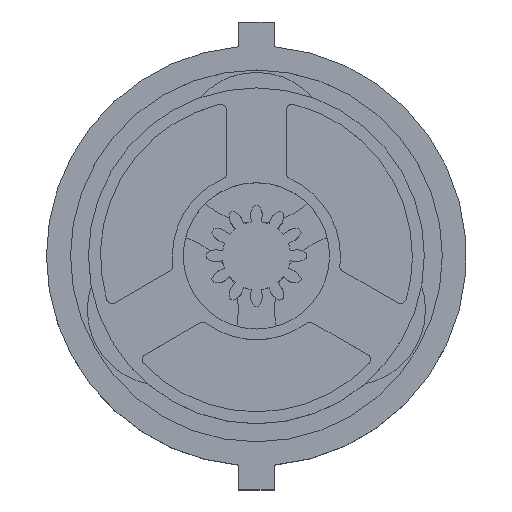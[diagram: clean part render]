
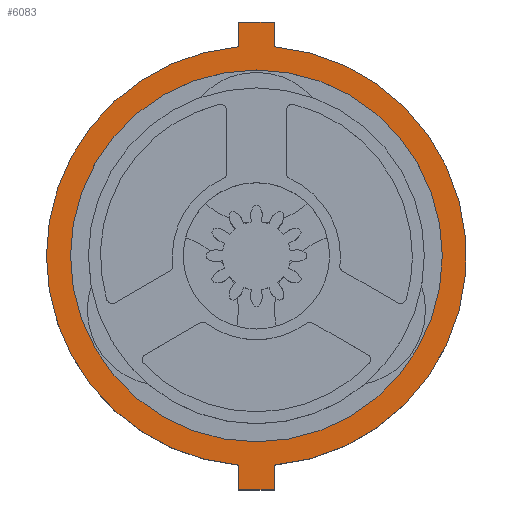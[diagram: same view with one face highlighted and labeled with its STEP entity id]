
A CAD part, top view. The second image highlights one B-rep face of the part: STEP entity #6083.
In plain terms, the highlighted planar face has unit normal (0, 0, 1).
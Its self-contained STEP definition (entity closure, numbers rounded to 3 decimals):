
#237 = CARTESIAN_POINT ( 'NONE',  ( 1.5, 17.436, 4.5 ) ) ;
#264 = DIRECTION ( 'NONE',  ( 0., 0., 1. ) ) ;
#531 = EDGE_CURVE ( 'NONE', #11348, #10470, #10943, .T. ) ;
#533 = EDGE_CURVE ( 'NONE', #4225, #11463, #2908, .T. ) ;
#665 = ORIENTED_EDGE ( 'NONE', *, *, #8161, .T. ) ;
#974 = ORIENTED_EDGE ( 'NONE', *, *, #7125, .T. ) ;
#1024 = DIRECTION ( 'NONE',  ( 1., 0., 0. ) ) ;
#1132 = CARTESIAN_POINT ( 'NONE',  ( -15.5, 0., 4.5 ) ) ;
#1181 = CARTESIAN_POINT ( 'NONE',  ( -1.5, 17.436, 4.5 ) ) ;
#1276 = DIRECTION ( 'NONE',  ( 0., 0., 1. ) ) ;
#1301 = LINE ( 'NONE', #9836, #5515 ) ;
#1413 = ORIENTED_EDGE ( 'NONE', *, *, #2164, .T. ) ;
#1693 = VERTEX_POINT ( 'NONE', #10947 ) ;
#1696 = VERTEX_POINT ( 'NONE', #1132 ) ;
#1781 = VECTOR ( 'NONE', #10933, 1000. ) ;
#2038 = LINE ( 'NONE', #7390, #5916 ) ;
#2164 = EDGE_CURVE ( 'NONE', #10470, #4225, #7751, .T. ) ;
#2465 = DIRECTION ( 'NONE',  ( 0., 0., 1. ) ) ;
#2513 = CIRCLE ( 'NONE', #3860, 17.5 ) ;
#2635 = CARTESIAN_POINT ( 'NONE',  ( -1.5, -17.436, 4.5 ) ) ;
#2701 = ORIENTED_EDGE ( 'NONE', *, *, #13694, .T. ) ;
#2908 = CIRCLE ( 'NONE', #6728, 17.5 ) ;
#3075 = ORIENTED_EDGE ( 'NONE', *, *, #531, .T. ) ;
#3744 = EDGE_CURVE ( 'NONE', #3961, #3769, #5150, .T. ) ;
#3769 = VERTEX_POINT ( 'NONE', #11923 ) ;
#3860 = AXIS2_PLACEMENT_3D ( 'NONE', #10209, #4912, #9158 ) ;
#3961 = VERTEX_POINT ( 'NONE', #10017 ) ;
#4162 = CIRCLE ( 'NONE', #10688, 15.5 ) ;
#4225 = VERTEX_POINT ( 'NONE', #1181 ) ;
#4529 = EDGE_CURVE ( 'NONE', #11463, #4781, #2513, .T. ) ;
#4658 = CARTESIAN_POINT ( 'NONE',  ( -1.5, 19.5, 4.5 ) ) ;
#4773 = EDGE_LOOP ( 'NONE', ( #974, #665, #3075, #1413, #7595, #13312, #11727, #2701, #13115 ) ) ;
#4774 = AXIS2_PLACEMENT_3D ( 'NONE', #11399, #4898, #6937 ) ;
#4781 = VERTEX_POINT ( 'NONE', #2635 ) ;
#4898 = DIRECTION ( 'NONE',  ( 0., 0., 1. ) ) ;
#4912 = DIRECTION ( 'NONE',  ( 0., 0., 1. ) ) ;
#4924 = DIRECTION ( 'NONE',  ( 1., 0., 0. ) ) ;
#5150 = LINE ( 'NONE', #12712, #9921 ) ;
#5401 = LINE ( 'NONE', #10563, #6403 ) ;
#5515 = VECTOR ( 'NONE', #1024, 1000. ) ;
#5553 = DIRECTION ( 'NONE',  ( 1., 0., 0. ) ) ;
#5701 = CIRCLE ( 'NONE', #13813, 17.5 ) ;
#5916 = VECTOR ( 'NONE', #10853, 1000. ) ;
#6083 = ADVANCED_FACE ( 'NONE', ( #12593, #8007 ), #12323, .T. ) ;
#6138 = CARTESIAN_POINT ( 'NONE',  ( -17.5, 0., 4.5 ) ) ;
#6337 = VERTEX_POINT ( 'NONE', #237 ) ;
#6403 = VECTOR ( 'NONE', #7309, 1000. ) ;
#6627 = DIRECTION ( 'NONE',  ( -1., 0., 0. ) ) ;
#6628 = CIRCLE ( 'NONE', #12949, 15.5 ) ;
#6667 = EDGE_CURVE ( 'NONE', #4781, #1693, #2038, .T. ) ;
#6672 = CARTESIAN_POINT ( 'NONE',  ( 0., 0., 4.5 ) ) ;
#6728 = AXIS2_PLACEMENT_3D ( 'NONE', #11081, #1276, #12996 ) ;
#6937 = DIRECTION ( 'NONE',  ( 1., 0., 0. ) ) ;
#7125 = EDGE_CURVE ( 'NONE', #3769, #6337, #5701, .T. ) ;
#7179 = ORIENTED_EDGE ( 'NONE', *, *, #8054, .F. ) ;
#7309 = DIRECTION ( 'NONE',  ( 0., 1., 0. ) ) ;
#7390 = CARTESIAN_POINT ( 'NONE',  ( -1.5, -19.5, 4.5 ) ) ;
#7595 = ORIENTED_EDGE ( 'NONE', *, *, #533, .T. ) ;
#7751 = LINE ( 'NONE', #10859, #1781 ) ;
#7821 = CARTESIAN_POINT ( 'NONE',  ( 0., 0., 4.5 ) ) ;
#8007 = FACE_OUTER_BOUND ( 'NONE', #4773, .T. ) ;
#8054 = EDGE_CURVE ( 'NONE', #1696, #11224, #4162, .T. ) ;
#8115 = ORIENTED_EDGE ( 'NONE', *, *, #13177, .F. ) ;
#8161 = EDGE_CURVE ( 'NONE', #6337, #11348, #5401, .T. ) ;
#9158 = DIRECTION ( 'NONE',  ( 1., 0., 0. ) ) ;
#9187 = DIRECTION ( 'NONE',  ( 0., 1., 0. ) ) ;
#9778 = DIRECTION ( 'NONE',  ( 1., 0., 0. ) ) ;
#9820 = CARTESIAN_POINT ( 'NONE',  ( -1.5, 19.5, 4.5 ) ) ;
#9836 = CARTESIAN_POINT ( 'NONE',  ( -1.5, -19.5, 4.5 ) ) ;
#9921 = VECTOR ( 'NONE', #9187, 1000. ) ;
#10017 = CARTESIAN_POINT ( 'NONE',  ( 1.5, -19.5, 4.5 ) ) ;
#10209 = CARTESIAN_POINT ( 'NONE',  ( 0., 0., 4.5 ) ) ;
#10307 = CARTESIAN_POINT ( 'NONE',  ( 1.5, 19.5, 4.5 ) ) ;
#10470 = VERTEX_POINT ( 'NONE', #9820 ) ;
#10563 = CARTESIAN_POINT ( 'NONE',  ( 1.5, 17.436, 4.5 ) ) ;
#10688 = AXIS2_PLACEMENT_3D ( 'NONE', #7821, #2465, #4924 ) ;
#10853 = DIRECTION ( 'NONE',  ( 0., -1., 0. ) ) ;
#10859 = CARTESIAN_POINT ( 'NONE',  ( -1.5, 17.436, 4.5 ) ) ;
#10933 = DIRECTION ( 'NONE',  ( 0., -1., 0. ) ) ;
#10943 = LINE ( 'NONE', #4658, #12829 ) ;
#10947 = CARTESIAN_POINT ( 'NONE',  ( -1.5, -19.5, 4.5 ) ) ;
#11081 = CARTESIAN_POINT ( 'NONE',  ( 0., 0., 4.5 ) ) ;
#11224 = VERTEX_POINT ( 'NONE', #13791 ) ;
#11348 = VERTEX_POINT ( 'NONE', #10307 ) ;
#11399 = CARTESIAN_POINT ( 'NONE',  ( 0., 0., 4.5 ) ) ;
#11463 = VERTEX_POINT ( 'NONE', #6138 ) ;
#11727 = ORIENTED_EDGE ( 'NONE', *, *, #6667, .T. ) ;
#11898 = CARTESIAN_POINT ( 'NONE',  ( 0., 0., 4.5 ) ) ;
#11923 = CARTESIAN_POINT ( 'NONE',  ( 1.5, -17.436, 4.5 ) ) ;
#11969 = DIRECTION ( 'NONE',  ( 0., 0., 1. ) ) ;
#12319 = EDGE_LOOP ( 'NONE', ( #8115, #7179 ) ) ;
#12323 = PLANE ( 'NONE',  #4774 ) ;
#12593 = FACE_BOUND ( 'NONE', #12319, .T. ) ;
#12712 = CARTESIAN_POINT ( 'NONE',  ( 1.5, -19.5, 4.5 ) ) ;
#12829 = VECTOR ( 'NONE', #6627, 1000. ) ;
#12949 = AXIS2_PLACEMENT_3D ( 'NONE', #6672, #264, #5553 ) ;
#12996 = DIRECTION ( 'NONE',  ( 1., 0., 0. ) ) ;
#13115 = ORIENTED_EDGE ( 'NONE', *, *, #3744, .T. ) ;
#13177 = EDGE_CURVE ( 'NONE', #11224, #1696, #6628, .T. ) ;
#13312 = ORIENTED_EDGE ( 'NONE', *, *, #4529, .T. ) ;
#13694 = EDGE_CURVE ( 'NONE', #1693, #3961, #1301, .T. ) ;
#13791 = CARTESIAN_POINT ( 'NONE',  ( 15.5, 0., 4.5 ) ) ;
#13813 = AXIS2_PLACEMENT_3D ( 'NONE', #11898, #11969, #9778 ) ;
